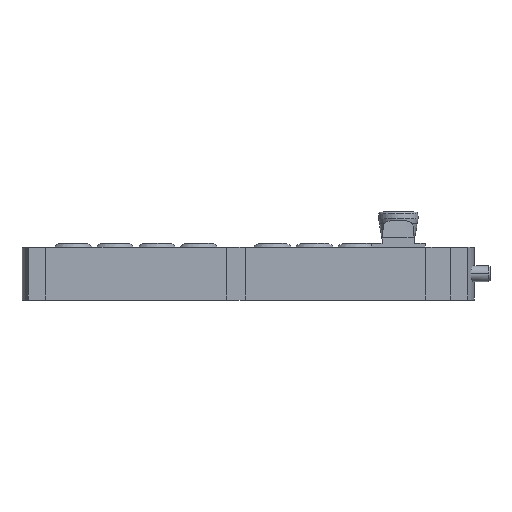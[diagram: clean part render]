
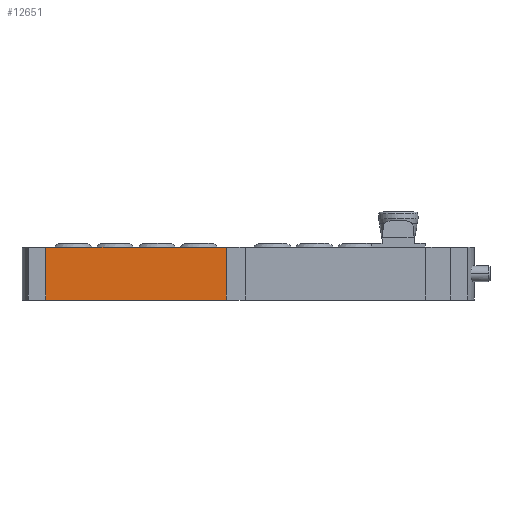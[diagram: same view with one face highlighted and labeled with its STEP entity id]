
A CAD part, left-side view. The second image highlights one B-rep face of the part: STEP entity #12651.
In plain terms, the highlighted planar face has unit normal (-1, 0, 0) as drawn and (0, 0, 1) by its records, which use the part's own axes.
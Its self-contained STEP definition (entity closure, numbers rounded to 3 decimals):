
#78 = VECTOR ( 'NONE', #24283, 1000. ) ;
#383 = LINE ( 'NONE', #20592, #78 ) ;
#447 = CARTESIAN_POINT ( 'NONE',  ( -68.35, 40., 20. ) ) ;
#1325 = CARTESIAN_POINT ( 'NONE',  ( 68.35, 40., 20. ) ) ;
#2095 = PLANE ( 'NONE',  #18005 ) ;
#2341 = ORIENTED_EDGE ( 'NONE', *, *, #21068, .T. ) ;
#2397 = LINE ( 'NONE', #447, #6169 ) ;
#3277 = LINE ( 'NONE', #1325, #19172 ) ;
#6169 = VECTOR ( 'NONE', #20647, 1000. ) ;
#6894 = EDGE_CURVE ( 'NONE', #14346, #25629, #2397, .T. ) ;
#7159 = EDGE_LOOP ( 'NONE', ( #2341, #25520, #21766, #7922 ) ) ;
#7421 = CARTESIAN_POINT ( 'NONE',  ( -68.35, 0., 20. ) ) ;
#7922 = ORIENTED_EDGE ( 'NONE', *, *, #15158, .T. ) ;
#9171 = VERTEX_POINT ( 'NONE', #7421 ) ;
#9712 = CARTESIAN_POINT ( 'NONE',  ( 68.35, 0., 20. ) ) ;
#12478 = CARTESIAN_POINT ( 'NONE',  ( 68.35, 40., 20. ) ) ;
#12651 = ADVANCED_FACE ( 'NONE', ( #24023 ), #2095, .F. ) ;
#13336 = LINE ( 'NONE', #25416, #23410 ) ;
#14346 = VERTEX_POINT ( 'NONE', #20954 ) ;
#15158 = EDGE_CURVE ( 'NONE', #14346, #9171, #383, .T. ) ;
#15301 = DIRECTION ( 'NONE',  ( 1., 0., 0. ) ) ;
#16244 = EDGE_CURVE ( 'NONE', #25629, #17169, #3277, .T. ) ;
#17169 = VERTEX_POINT ( 'NONE', #9712 ) ;
#18005 = AXIS2_PLACEMENT_3D ( 'NONE', #20461, #21921, #18100 ) ;
#18100 = DIRECTION ( 'NONE',  ( -1., 0., 0. ) ) ;
#19172 = VECTOR ( 'NONE', #25462, 1000. ) ;
#20461 = CARTESIAN_POINT ( 'NONE',  ( -68.35, 40., 20. ) ) ;
#20592 = CARTESIAN_POINT ( 'NONE',  ( -68.35, 40., 20. ) ) ;
#20647 = DIRECTION ( 'NONE',  ( 1., 0., 0. ) ) ;
#20954 = CARTESIAN_POINT ( 'NONE',  ( -68.35, 40., 20. ) ) ;
#21068 = EDGE_CURVE ( 'NONE', #9171, #17169, #13336, .T. ) ;
#21766 = ORIENTED_EDGE ( 'NONE', *, *, #6894, .F. ) ;
#21921 = DIRECTION ( 'NONE',  ( 0., 0., -1. ) ) ;
#23410 = VECTOR ( 'NONE', #15301, 1000. ) ;
#24023 = FACE_OUTER_BOUND ( 'NONE', #7159, .T. ) ;
#24283 = DIRECTION ( 'NONE',  ( 0., -1., 0. ) ) ;
#25416 = CARTESIAN_POINT ( 'NONE',  ( -68.35, 0., 20. ) ) ;
#25462 = DIRECTION ( 'NONE',  ( 0., -1., 0. ) ) ;
#25520 = ORIENTED_EDGE ( 'NONE', *, *, #16244, .F. ) ;
#25629 = VERTEX_POINT ( 'NONE', #12478 ) ;
